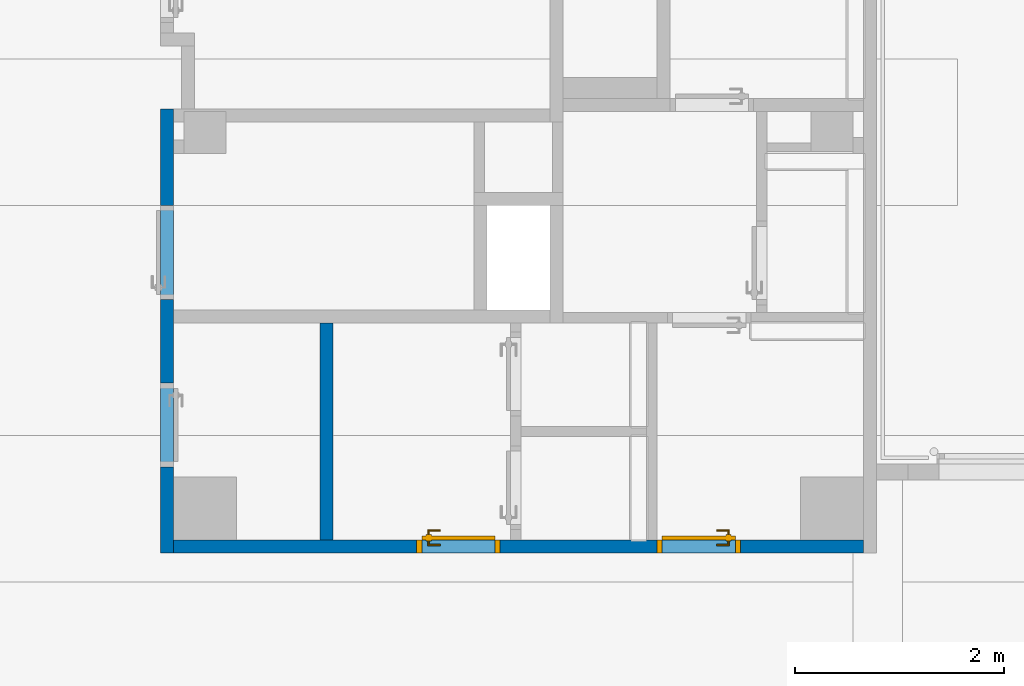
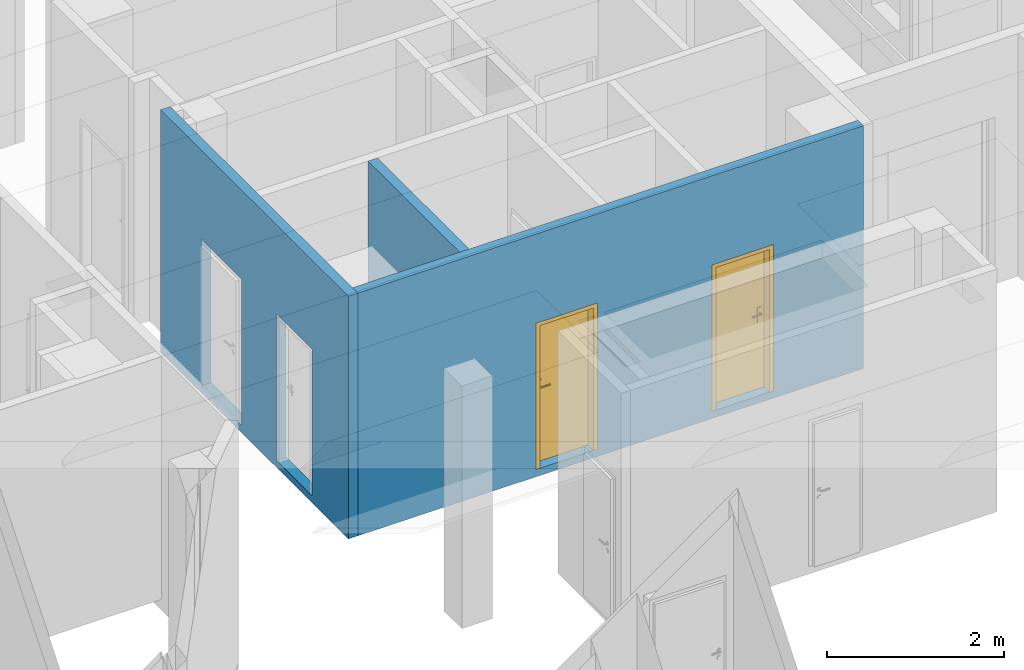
# One storey, part 38 of 140: 3 walls, 2 doors, 4 openings.
"""IFC4 building model written with IfcOpenShell, lengths in metres."""

from ifc_helpers import new_model, entity, si_unit, converted_unit, derived_unit, frame, frame_2d, origin, origin_with_axes, place, context, subcontext, project, spatial, polyline, rectangle, outline, extrude, closed_shell, open_shell, surface_model, source, transform, mapped, material, layer, layer_set, layer_usage, type_object, element, fill, save


model = new_model("IFC4")

# Units and contexts
model_context = context("Model", 3, precision=1e-05, world=origin())
body_context = subcontext(model_context, "Body", "Model", "MODEL_VIEW")
ifc_project = project(units=[si_unit("LENGTHUNIT", "METRE"), si_unit("AREAUNIT", "SQUARE_METRE"), si_unit("VOLUMEUNIT", "CUBIC_METRE"), si_unit("MASSUNIT", "GRAM", prefix="KILO"), converted_unit("PLANEANGLEUNIT", "DEGREE", entity("IfcPlaneAngleMeasure", 0.0174532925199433), si_unit("PLANEANGLEUNIT", "RADIAN"), dimensions=[0, 0, 0, 0, 0, 0, 0]), derived_unit("THERMALTRANSMITTANCEUNIT", [(si_unit("POWERUNIT", "WATT"), 1), (si_unit("THERMODYNAMICTEMPERATUREUNIT", "KELVIN"), -1), (si_unit("LENGTHUNIT", "METRE"), -2)]), derived_unit("VOLUMETRICFLOWRATEUNIT", [(si_unit("LENGTHUNIT", "METRE"), 3), (converted_unit("TIMEUNIT", "hour", entity("IfcTimeMeasure", 3600.0), si_unit("TIMEUNIT", "SECOND"), dimensions=[0, 0, 1, 0, 0, 0, 0]), -1), (si_unit("LENGTHUNIT", "METRE"), -1)])], contexts=[model_context])

# Site, building, storey
site_placement = place(None, origin())
site = spatial("IfcSite", under=ifc_project, at=site_placement, Name="3. ASŘ", CompositionType="ELEMENT")
building_placement = place(site_placement, origin())
building = spatial("IfcBuilding", under=site, at=building_placement, Name="Pavilon C", CompositionType="ELEMENT")
storey_placement = place(building_placement, origin())
storey = spatial("IfcBuildingStorey", under=building, at=storey_placement, Name="Půdorys 1.NP", CompositionType="ELEMENT", Elevation=0.0)

# Wall, openings, doors
ifc_material_1 = material(Name="ZDIVO Z CDm")
ifc_layer_1 = layer(ifc_material_1, 0.125)
ifc_layer_set_1 = layer_set([ifc_layer_1])
ifc_layer_usage_1 = layer_usage(ifc_layer_set_1, "AXIS2", "POSITIVE", 0.0)
wall_1_placement = place(storey_placement, frame((34.05, 12.775, -0.1)))
wall_1 = element("IfcWall", 1, at=wall_1_placement, inside=storey, material=ifc_layer_usage_1, Name="ZDIVO Z CDm", context=body_context, shape_type="SweptSolid", body=[
    extrude(rectangle(XDim=6.6, YDim=0.125, at=frame_2d((3.3, 0.0625), x_axis=(1.0, 0.0))), origin_with_axes(), (0.0, 0.0, 1.0), 3.35),
])
opening_1_placement = place(wall_1_placement, frame((2.32500000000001, 0.0, 0.1), z_axis=(0.0, 1.0, 0.0), x_axis=(0.0, 0.0, 1.0)))
opening_1 = element("IfcOpeningElement", 2, at=opening_1_placement, cuts=wall_1, Name="Dveřní otvor", ObjectType="Opening", context=body_context, shape_type="SweptSolid", body=[
    extrude(outline(polyline([(0.0, 0.8), (2.02, 0.8), (2.02, 0.0), (0.0, 0.0), (0.0, 0.8)])), origin_with_axes(), (0.0, 0.0, 1.0), 0.125),
])
opening_2_placement = place(wall_1_placement, frame((4.625, 0.0, 0.1), z_axis=(0.0, 1.0, 0.0), x_axis=(0.0, 0.0, 1.0)))
opening_2 = element("IfcOpeningElement", 3, at=opening_2_placement, cuts=wall_1, Name="Dveřní otvor", ObjectType="Opening", context=body_context, shape_type="SweptSolid", body=[
    extrude(outline(polyline([(0.0, 0.8), (2.02, 0.8), (2.02, 0.0), (0.0, 0.0), (0.0, 0.8)])), origin_with_axes(), (0.0, 0.0, 1.0), 0.125),
])
door_type_1 = type_object("IfcDoorType", Name="D101", OperationType="NOTDEFINED", ParameterTakesPrecedence=False, PredefinedType="DOOR")
shared_shape_1 = source(origin_with_axes(), body_context, "Body", "SurfaceModel", [
    surface_model("IfcShellBasedSurfaceModel", [(0.0, 0.125, 2.02), (0.0, 0.125, -7.65404249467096e-18), (0.05, 0.125, -7.65404249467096e-18), (0.05, 0.125, 2.02), (0.0, 0.0, 7.65404249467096e-18), (0.0, 2.41584530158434e-16, 2.02), (0.05, 2.41584530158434e-16, 2.02), (0.05, 0.0, 7.65404249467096e-18)], [closed_shell([[[0, 1, 2, 3]], [[4, 5, 6, 7]], [[1, 0, 5, 4]], [[2, 1, 4, 7]], [[3, 2, 7, 6]], [[0, 3, 6, 5]]], orient=[[False], [False], [False], [False], [False], [False]])]),
    surface_model("IfcShellBasedSurfaceModel", [(0.75, 0.125, 2.02), (0.75, 0.125, -7.65404249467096e-18), (0.8, 0.125, -7.65404249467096e-18), (0.8, 0.125, 2.02), (0.75, 0.0, 7.65404249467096e-18), (0.75, 2.41584530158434e-16, 2.02), (0.8, 2.41584530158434e-16, 2.02), (0.8, 0.0, 7.65404249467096e-18)], [closed_shell([[[0, 1, 2, 3]], [[4, 5, 6, 7]], [[1, 0, 5, 4]], [[2, 1, 4, 7]], [[3, 2, 7, 6]], [[0, 3, 6, 5]]], orient=[[False], [False], [False], [False], [False], [False]])]),
    surface_model("IfcShellBasedSurfaceModel", [(0.05, 0.125, 2.02), (0.05, 0.125, 1.97), (0.75, 0.125, 1.97), (0.75, 0.125, 2.02), (0.05, 2.41584530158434e-16, 1.97), (0.05, 2.41584530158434e-16, 2.02), (0.75, 2.41584530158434e-16, 2.02), (0.75, 2.41584530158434e-16, 1.97)], [closed_shell([[[0, 1, 2, 3]], [[4, 5, 6, 7]], [[1, 0, 5, 4]], [[2, 1, 4, 7]], [[3, 2, 7, 6]], [[0, 3, 6, 5]]], orient=[[False], [False], [False], [False], [False], [False]])]),
    surface_model("IfcShellBasedSurfaceModel", [(0.05, 0.165, 1.97), (0.05, 0.165, -1.25526296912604e-17), (0.75, 0.165, -1.25526296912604e-17), (0.75, 0.165, 1.97), (0.05, 0.125, -7.65404249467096e-18), (0.05, 0.125, 1.97), (0.75, 0.125, 1.97), (0.75, 0.125, -7.65404249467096e-18)], [closed_shell([[[0, 1, 2, 3]], [[4, 5, 6, 7]], [[1, 0, 5, 4]], [[2, 1, 4, 7]], [[3, 2, 7, 6]], [[0, 3, 6, 5]]], orient=[[False], [False], [False], [False], [False], [False]])]),
    surface_model("IfcShellBasedSurfaceModel", [(0.66, 0.125, 1.125), (0.66, 0.125, 0.91), (0.71, 0.125, 0.91), (0.71, 0.125, 1.125), (0.66, 0.115, 0.91), (0.66, 0.115, 1.125), (0.71, 0.115, 1.125), (0.71, 0.115, 0.91)], [closed_shell([[[0, 1, 2, 3]], [[4, 5, 6, 7]], [[1, 0, 5, 4]], [[2, 1, 4, 7]], [[3, 2, 7, 6]], [[0, 3, 6, 5]]], orient=[[False], [False], [False], [False], [False], [False]])]),
    surface_model("IfcShellBasedSurfaceModel", [(0.685, 0.115, 1.06), (0.68, 0.115, 1.05866025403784), (0.676339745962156, 0.115, 1.055), (0.675, 0.115, 1.05), (0.676339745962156, 0.115, 1.045), (0.68, 0.115, 1.04133974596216), (0.685, 0.115, 1.04), (0.69, 0.115, 1.04133974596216), (0.693660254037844, 0.115, 1.045), (0.695, 0.115, 1.05), (0.693660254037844, 0.115, 1.055), (0.69, 0.115, 1.05866025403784), (0.69, 0.0700000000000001, 1.05866025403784), (0.685, 0.0750000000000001, 1.06), (0.693660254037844, 0.0663397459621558, 1.055), (0.695, 0.0650000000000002, 1.05), (0.693660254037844, 0.0663397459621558, 1.045), (0.69, 0.0700000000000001, 1.04133974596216), (0.685, 0.0750000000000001, 1.04), (0.68, 0.0800000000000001, 1.04133974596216), (0.676339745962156, 0.0836602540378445, 1.045), (0.675, 0.0850000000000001, 1.05), (0.676339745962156, 0.0836602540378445, 1.055), (0.68, 0.0800000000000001, 1.05866025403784), (0.57, 0.0700000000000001, 1.05866025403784), (0.57, 0.0750000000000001, 1.06), (0.57, 0.0663397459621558, 1.055), (0.57, 0.0650000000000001, 1.05), (0.57, 0.0663397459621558, 1.045), (0.57, 0.0700000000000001, 1.04133974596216), (0.57, 0.0750000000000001, 1.04), (0.57, 0.0800000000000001, 1.04133974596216), (0.57, 0.0836602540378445, 1.045), (0.57, 0.0850000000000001, 1.05), (0.57, 0.0836602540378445, 1.055), (0.57, 0.0800000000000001, 1.05866025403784)], [open_shell([[[0, 1, 2, 3, 4, 5, 6, 7, 8, 9, 10, 11]], [[0, 11, 12, 13]], [[11, 10, 14, 12]], [[10, 9, 15, 14]], [[9, 8, 16, 15]], [[8, 7, 17, 16]], [[7, 6, 18, 17]], [[6, 5, 19, 18]], [[5, 4, 20, 19]], [[4, 3, 21, 20]], [[3, 2, 22, 21]], [[2, 1, 23, 22]], [[1, 0, 13, 23]], [[13, 12, 24, 25]], [[12, 14, 26, 24]], [[14, 15, 27, 26]], [[15, 16, 28, 27]], [[16, 17, 29, 28]], [[17, 18, 30, 29]], [[18, 19, 31, 30]], [[19, 20, 32, 31]], [[20, 21, 33, 32]], [[21, 22, 34, 33]], [[22, 23, 35, 34]], [[23, 13, 25, 35]]], orient=[[False], [False], [False], [False], [False], [False], [False], [False], [False], [False], [False], [False], [False], [False], [False], [False], [False], [False], [False], [False], [False], [False], [False], [False], [False]])]),
    surface_model("IfcShellBasedSurfaceModel", [(0.66, 0.165, 1.125), (0.71, 0.165, 1.125), (0.71, 0.165, 0.91), (0.66, 0.165, 0.91), (0.66, 0.175, 0.91), (0.71, 0.175, 0.91), (0.71, 0.175, 1.125), (0.66, 0.175, 1.125)], [closed_shell([[[0, 1, 2, 3]], [[4, 5, 6, 7]], [[3, 4, 7, 0]], [[2, 5, 4, 3]], [[1, 6, 5, 2]], [[0, 7, 6, 1]]], orient=[[False], [False], [False], [False], [False], [False]])]),
    surface_model("IfcShellBasedSurfaceModel", [(0.685, 0.175, 1.06), (0.69, 0.175, 1.05866025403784), (0.693660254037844, 0.175, 1.055), (0.695, 0.175, 1.05), (0.693660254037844, 0.175, 1.045), (0.69, 0.175, 1.04133974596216), (0.685, 0.175, 1.04), (0.68, 0.175, 1.04133974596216), (0.676339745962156, 0.175, 1.045), (0.675, 0.175, 1.05), (0.676339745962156, 0.175, 1.055), (0.68, 0.175, 1.05866025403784), (0.685, 0.215, 1.06), (0.69, 0.22, 1.05866025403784), (0.693660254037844, 0.223660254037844, 1.055), (0.695, 0.225, 1.05), (0.693660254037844, 0.223660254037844, 1.045), (0.69, 0.22, 1.04133974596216), (0.685, 0.215, 1.04), (0.68, 0.21, 1.04133974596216), (0.676339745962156, 0.206339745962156, 1.045), (0.675, 0.205, 1.05), (0.676339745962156, 0.206339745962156, 1.055), (0.68, 0.21, 1.05866025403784), (0.57, 0.215, 1.06), (0.57, 0.22, 1.05866025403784), (0.57, 0.223660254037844, 1.055), (0.57, 0.225, 1.05), (0.57, 0.223660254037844, 1.045), (0.57, 0.22, 1.04133974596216), (0.57, 0.215, 1.04), (0.57, 0.21, 1.04133974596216), (0.57, 0.206339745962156, 1.045), (0.57, 0.205, 1.05), (0.57, 0.206339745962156, 1.055), (0.57, 0.21, 1.05866025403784)], [open_shell([[[0, 1, 2, 3, 4, 5, 6, 7, 8, 9, 10, 11]], [[0, 12, 13, 1]], [[1, 13, 14, 2]], [[2, 14, 15, 3]], [[3, 15, 16, 4]], [[4, 16, 17, 5]], [[5, 17, 18, 6]], [[6, 18, 19, 7]], [[7, 19, 20, 8]], [[8, 20, 21, 9]], [[9, 21, 22, 10]], [[10, 22, 23, 11]], [[11, 23, 12, 0]], [[12, 24, 25, 13]], [[13, 25, 26, 14]], [[14, 26, 27, 15]], [[15, 27, 28, 16]], [[16, 28, 29, 17]], [[17, 29, 30, 18]], [[18, 30, 31, 19]], [[19, 31, 32, 20]], [[20, 32, 33, 21]], [[21, 33, 34, 22]], [[22, 34, 35, 23]], [[23, 35, 24, 12]]], orient=[[False], [False], [False], [False], [False], [False], [False], [False], [False], [False], [False], [False], [False], [False], [False], [False], [False], [False], [False], [False], [False], [False], [False], [False], [False]])]),
])
door_1_placement = place(opening_1_placement, frame((0.0, 0.8, 0.0), z_axis=(1.0, 0.0, 0.0), x_axis=(0.0, -1.0, 0.0)))
door_1 = element("IfcDoor", 4, at=door_1_placement, inside=storey, type_object=door_type_1, Name="D101", OverallHeight=2.02, OverallWidth=0.8, context=body_context, shape_type="MappedRepresentation", body=[
    mapped(shared_shape_1, transform((0.0, 0.0, 0.0), x_axis=(1.0, 0.0, 0.0), y_axis=(0.0, -1.0, 0.0), z_axis=(0.0, 0.0, 1.0), scale=1.0)),
])
fill(opening_1, door_1)
door_type_2 = type_object("IfcDoorType", Name="D101", OperationType="NOTDEFINED", ParameterTakesPrecedence=False, PredefinedType="DOOR")
shared_shape_2 = source(origin_with_axes(), body_context, "Body", "SurfaceModel", [
    surface_model("IfcShellBasedSurfaceModel", [(0.0, 0.125, 2.02), (0.0, 0.125, -7.65404249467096e-18), (0.05, 0.125, -7.65404249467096e-18), (0.05, 0.125, 2.02), (0.0, 0.0, 7.65404249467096e-18), (0.0, 2.41584530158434e-16, 2.02), (0.05, 2.41584530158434e-16, 2.02), (0.05, 0.0, 7.65404249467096e-18)], [closed_shell([[[0, 1, 2, 3]], [[4, 5, 6, 7]], [[1, 0, 5, 4]], [[2, 1, 4, 7]], [[3, 2, 7, 6]], [[0, 3, 6, 5]]], orient=[[False], [False], [False], [False], [False], [False]])]),
    surface_model("IfcShellBasedSurfaceModel", [(0.750000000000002, 0.125, 2.02), (0.750000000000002, 0.125, -7.65404249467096e-18), (0.800000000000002, 0.125, -7.65404249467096e-18), (0.800000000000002, 0.125, 2.02), (0.750000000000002, 0.0, 7.65404249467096e-18), (0.750000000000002, 2.41584530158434e-16, 2.02), (0.800000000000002, 2.41584530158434e-16, 2.02), (0.800000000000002, 0.0, 7.65404249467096e-18)], [closed_shell([[[0, 1, 2, 3]], [[4, 5, 6, 7]], [[1, 0, 5, 4]], [[2, 1, 4, 7]], [[3, 2, 7, 6]], [[0, 3, 6, 5]]], orient=[[False], [False], [False], [False], [False], [False]])]),
    surface_model("IfcShellBasedSurfaceModel", [(0.05, 0.125, 2.02), (0.05, 0.125, 1.97), (0.750000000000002, 0.125, 1.97), (0.750000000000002, 0.125, 2.02), (0.05, 2.41584530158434e-16, 1.97), (0.05, 2.41584530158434e-16, 2.02), (0.750000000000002, 2.41584530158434e-16, 2.02), (0.750000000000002, 2.41584530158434e-16, 1.97)], [closed_shell([[[0, 1, 2, 3]], [[4, 5, 6, 7]], [[1, 0, 5, 4]], [[2, 1, 4, 7]], [[3, 2, 7, 6]], [[0, 3, 6, 5]]], orient=[[False], [False], [False], [False], [False], [False]])]),
    surface_model("IfcShellBasedSurfaceModel", [(0.05, 0.165, 1.97), (0.05, 0.165, -1.25526296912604e-17), (0.750000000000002, 0.165, -1.25526296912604e-17), (0.750000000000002, 0.165, 1.97), (0.05, 0.125, -7.65404249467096e-18), (0.05, 0.125, 1.97), (0.750000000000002, 0.125, 1.97), (0.750000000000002, 0.125, -7.65404249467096e-18)], [closed_shell([[[0, 1, 2, 3]], [[4, 5, 6, 7]], [[1, 0, 5, 4]], [[2, 1, 4, 7]], [[3, 2, 7, 6]], [[0, 3, 6, 5]]], orient=[[False], [False], [False], [False], [False], [False]])]),
    surface_model("IfcShellBasedSurfaceModel", [(0.660000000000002, 0.125, 1.125), (0.660000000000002, 0.125, 0.91), (0.710000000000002, 0.125, 0.91), (0.710000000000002, 0.125, 1.125), (0.660000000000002, 0.115, 0.91), (0.660000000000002, 0.115, 1.125), (0.710000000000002, 0.115, 1.125), (0.710000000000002, 0.115, 0.91)], [closed_shell([[[0, 1, 2, 3]], [[4, 5, 6, 7]], [[1, 0, 5, 4]], [[2, 1, 4, 7]], [[3, 2, 7, 6]], [[0, 3, 6, 5]]], orient=[[False], [False], [False], [False], [False], [False]])]),
    surface_model("IfcShellBasedSurfaceModel", [(0.685000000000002, 0.115, 1.06), (0.680000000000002, 0.115, 1.05866025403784), (0.676339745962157, 0.115, 1.055), (0.675000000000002, 0.115, 1.05), (0.676339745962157, 0.115, 1.045), (0.680000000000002, 0.115, 1.04133974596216), (0.685000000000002, 0.115, 1.04), (0.690000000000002, 0.115, 1.04133974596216), (0.693660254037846, 0.115, 1.045), (0.695000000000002, 0.115, 1.05), (0.693660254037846, 0.115, 1.055), (0.690000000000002, 0.115, 1.05866025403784), (0.690000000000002, 0.0700000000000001, 1.05866025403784), (0.685000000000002, 0.0750000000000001, 1.06), (0.693660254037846, 0.0663397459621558, 1.055), (0.695000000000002, 0.0650000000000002, 1.05), (0.693660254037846, 0.0663397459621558, 1.045), (0.690000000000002, 0.0700000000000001, 1.04133974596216), (0.685000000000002, 0.0750000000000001, 1.04), (0.680000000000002, 0.0800000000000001, 1.04133974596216), (0.676339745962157, 0.0836602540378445, 1.045), (0.675000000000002, 0.0850000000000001, 1.05), (0.676339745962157, 0.0836602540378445, 1.055), (0.680000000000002, 0.0800000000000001, 1.05866025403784), (0.570000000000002, 0.0700000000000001, 1.05866025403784), (0.570000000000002, 0.0750000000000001, 1.06), (0.570000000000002, 0.0663397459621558, 1.055), (0.570000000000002, 0.0650000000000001, 1.05), (0.570000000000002, 0.0663397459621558, 1.045), (0.570000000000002, 0.0700000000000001, 1.04133974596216), (0.570000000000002, 0.0750000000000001, 1.04), (0.570000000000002, 0.0800000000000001, 1.04133974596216), (0.570000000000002, 0.0836602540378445, 1.045), (0.570000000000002, 0.0850000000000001, 1.05), (0.570000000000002, 0.0836602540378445, 1.055), (0.570000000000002, 0.0800000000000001, 1.05866025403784)], [open_shell([[[0, 1, 2, 3, 4, 5, 6, 7, 8, 9, 10, 11]], [[0, 11, 12, 13]], [[11, 10, 14, 12]], [[10, 9, 15, 14]], [[9, 8, 16, 15]], [[8, 7, 17, 16]], [[7, 6, 18, 17]], [[6, 5, 19, 18]], [[5, 4, 20, 19]], [[4, 3, 21, 20]], [[3, 2, 22, 21]], [[2, 1, 23, 22]], [[1, 0, 13, 23]], [[13, 12, 24, 25]], [[12, 14, 26, 24]], [[14, 15, 27, 26]], [[15, 16, 28, 27]], [[16, 17, 29, 28]], [[17, 18, 30, 29]], [[18, 19, 31, 30]], [[19, 20, 32, 31]], [[20, 21, 33, 32]], [[21, 22, 34, 33]], [[22, 23, 35, 34]], [[23, 13, 25, 35]]], orient=[[False], [False], [False], [False], [False], [False], [False], [False], [False], [False], [False], [False], [False], [False], [False], [False], [False], [False], [False], [False], [False], [False], [False], [False], [False]])]),
    surface_model("IfcShellBasedSurfaceModel", [(0.660000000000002, 0.165, 1.125), (0.710000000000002, 0.165, 1.125), (0.710000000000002, 0.165, 0.91), (0.660000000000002, 0.165, 0.91), (0.660000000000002, 0.175, 0.91), (0.710000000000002, 0.175, 0.91), (0.710000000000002, 0.175, 1.125), (0.660000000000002, 0.175, 1.125)], [closed_shell([[[0, 1, 2, 3]], [[4, 5, 6, 7]], [[3, 4, 7, 0]], [[2, 5, 4, 3]], [[1, 6, 5, 2]], [[0, 7, 6, 1]]], orient=[[False], [False], [False], [False], [False], [False]])]),
    surface_model("IfcShellBasedSurfaceModel", [(0.685000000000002, 0.175, 1.06), (0.690000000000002, 0.175, 1.05866025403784), (0.693660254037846, 0.175, 1.055), (0.695000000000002, 0.175, 1.05), (0.693660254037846, 0.175, 1.045), (0.690000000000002, 0.175, 1.04133974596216), (0.685000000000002, 0.175, 1.04), (0.680000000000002, 0.175, 1.04133974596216), (0.676339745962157, 0.175, 1.045), (0.675000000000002, 0.175, 1.05), (0.676339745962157, 0.175, 1.055), (0.680000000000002, 0.175, 1.05866025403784), (0.685000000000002, 0.215, 1.06), (0.690000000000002, 0.22, 1.05866025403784), (0.693660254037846, 0.223660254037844, 1.055), (0.695000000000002, 0.225, 1.05), (0.693660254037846, 0.223660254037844, 1.045), (0.690000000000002, 0.22, 1.04133974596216), (0.685000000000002, 0.215, 1.04), (0.680000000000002, 0.21, 1.04133974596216), (0.676339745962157, 0.206339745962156, 1.045), (0.675000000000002, 0.205, 1.05), (0.676339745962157, 0.206339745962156, 1.055), (0.680000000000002, 0.21, 1.05866025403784), (0.570000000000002, 0.215, 1.06), (0.570000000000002, 0.22, 1.05866025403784), (0.570000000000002, 0.223660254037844, 1.055), (0.570000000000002, 0.225, 1.05), (0.570000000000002, 0.223660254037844, 1.045), (0.570000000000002, 0.22, 1.04133974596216), (0.570000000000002, 0.215, 1.04), (0.570000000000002, 0.21, 1.04133974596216), (0.570000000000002, 0.206339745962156, 1.045), (0.570000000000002, 0.205, 1.05), (0.570000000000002, 0.206339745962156, 1.055), (0.570000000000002, 0.21, 1.05866025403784)], [open_shell([[[0, 1, 2, 3, 4, 5, 6, 7, 8, 9, 10, 11]], [[0, 12, 13, 1]], [[1, 13, 14, 2]], [[2, 14, 15, 3]], [[3, 15, 16, 4]], [[4, 16, 17, 5]], [[5, 17, 18, 6]], [[6, 18, 19, 7]], [[7, 19, 20, 8]], [[8, 20, 21, 9]], [[9, 21, 22, 10]], [[10, 22, 23, 11]], [[11, 23, 12, 0]], [[12, 24, 25, 13]], [[13, 25, 26, 14]], [[14, 26, 27, 15]], [[15, 27, 28, 16]], [[16, 28, 29, 17]], [[17, 29, 30, 18]], [[18, 30, 31, 19]], [[19, 31, 32, 20]], [[20, 32, 33, 21]], [[21, 33, 34, 22]], [[22, 34, 35, 23]], [[23, 35, 24, 12]]], orient=[[False], [False], [False], [False], [False], [False], [False], [False], [False], [False], [False], [False], [False], [False], [False], [False], [False], [False], [False], [False], [False], [False], [False], [False], [False]])]),
])
door_2_placement = place(opening_2_placement, frame((0.0, 0.0, 0.0), z_axis=(1.0, 0.0, 0.0), x_axis=(0.0, 0.999999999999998, 0.0)))
door_2 = element("IfcDoor", 5, at=door_2_placement, inside=storey, type_object=door_type_2, Name="D101", OverallHeight=2.02, OverallWidth=0.8, context=body_context, shape_type="MappedRepresentation", body=[
    mapped(shared_shape_2, transform((0.0, 0.0, 0.0), x_axis=(1.0, 0.0, 0.0), y_axis=(0.0, 1.0, 0.0), z_axis=(0.0, 0.0, 1.0), scale=0.999999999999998)),
])
fill(opening_2, door_2)

# Wall, openings
ifc_material_2 = material(Name="ZDIVO Z CDm")
ifc_layer_2 = layer(ifc_material_2, 0.125)
ifc_layer_set_2 = layer_set([ifc_layer_2])
ifc_layer_usage_2 = layer_usage(ifc_layer_set_2, "AXIS2", "POSITIVE", 0.0)
wall_2_placement = place(storey_placement, frame((34.05, 12.775, -0.1), z_axis=(0.0, 0.0, 1.0), x_axis=(0.0, 1.0, 0.0)))
wall_2 = element("IfcWall", 6, at=wall_2_placement, inside=storey, material=ifc_layer_usage_2, Name="ZDIVO Z CDm", context=body_context, shape_type="SweptSolid", body=[
    extrude(rectangle(XDim=4.25, YDim=0.125, at=frame_2d((2.125, 0.0625), x_axis=(1.0, 0.0))), origin_with_axes(), (0.0, 0.0, 1.0), 3.35),
])
opening_3_placement = place(wall_2_placement, frame((1.62499999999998, 0.125, 0.1), z_axis=(0.0, -1.0, 0.0), x_axis=(0.0, 0.0, 1.0)))
element("IfcOpeningElement", 7, at=opening_3_placement, cuts=wall_2, Name="Dveřní otvor", ObjectType="Opening", context=body_context, shape_type="SweptSolid", body=[
    extrude(outline(polyline([(0.0, 0.8), (2.02, 0.8), (2.02, 0.0), (0.0, 0.0), (0.0, 0.8)])), origin_with_axes(), (0.0, 0.0, 1.0), 0.125),
])
opening_4_placement = place(wall_2_placement, frame((3.32499999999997, 0.125, 0.1), z_axis=(0.0, -1.0, 0.0), x_axis=(0.0, 0.0, 1.0)))
element("IfcOpeningElement", 8, at=opening_4_placement, cuts=wall_2, Name="Dveřní otvor", ObjectType="Opening", context=body_context, shape_type="SweptSolid", body=[
    extrude(outline(polyline([(0.0, 0.9), (2.02, 0.9), (2.02, 0.0), (0.0, 0.0), (0.0, 0.9)])), origin_with_axes(), (0.0, 0.0, 1.0), 0.125),
])

# Wall
ifc_material_3 = material(Name="ZDIVO Z CDm")
ifc_layer_3 = layer(ifc_material_3, 0.125)
ifc_layer_set_3 = layer_set([ifc_layer_3])
ifc_layer_usage_3 = layer_usage(ifc_layer_set_3, "AXIS2", "POSITIVE", 0.0)
wall_3_placement = place(storey_placement, frame((35.575, 12.9, -0.1), z_axis=(0.0, 0.0, 1.0), x_axis=(0.0, 1.0, 0.0)))
element("IfcWall", 9, at=wall_3_placement, inside=storey, material=ifc_layer_usage_3, Name="ZDIVO Z CDm", context=body_context, shape_type="SweptSolid", body=[
    extrude(rectangle(XDim=2.075, YDim=0.125, at=frame_2d((1.0375, 0.0625), x_axis=(1.0, 0.0))), origin_with_axes(), (0.0, 0.0, 1.0), 3.35),
])

save(model, "model.ifc")
